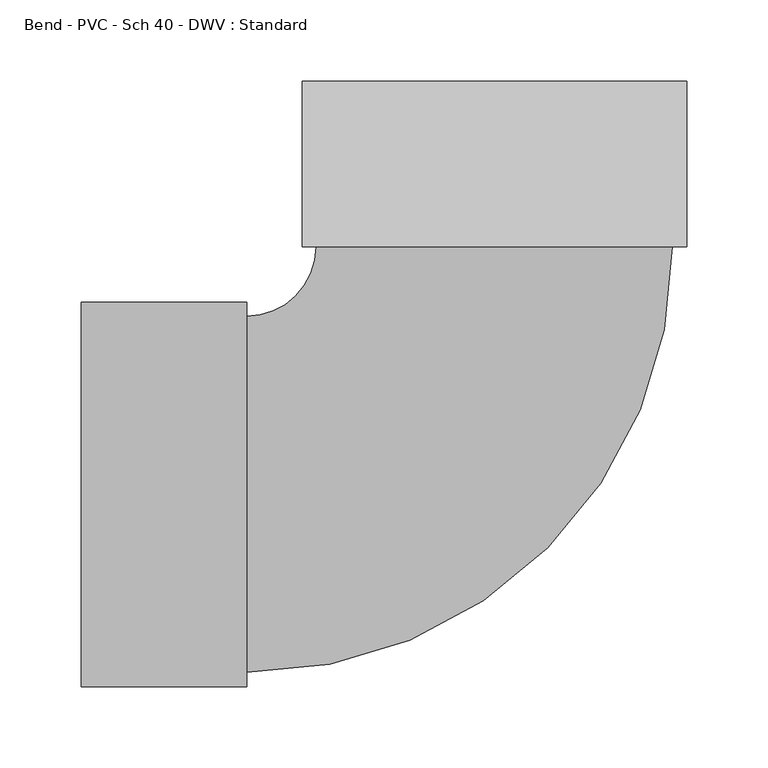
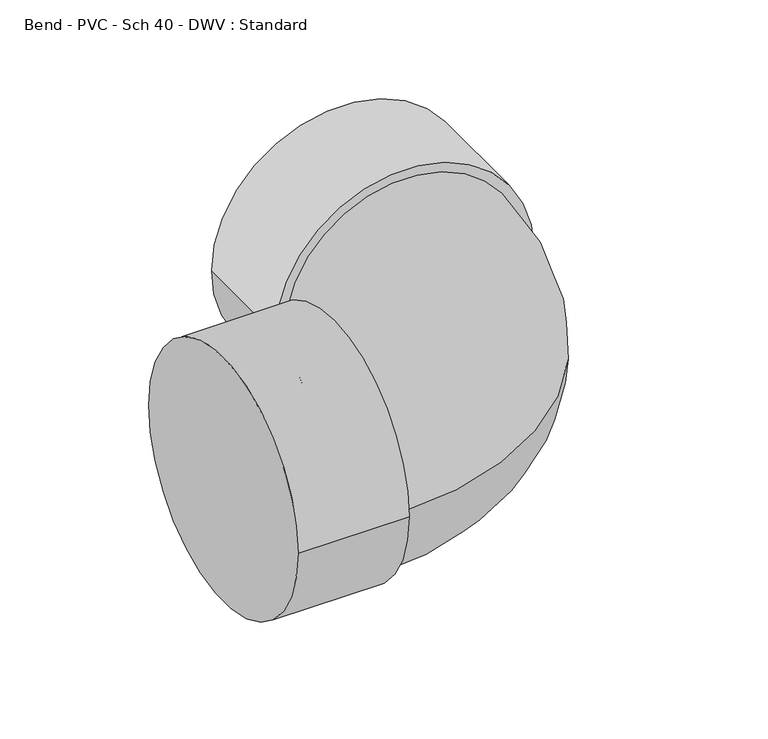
"""IFC4 building model written with IfcOpenShell, lengths in millimetres: pipe fitting geometry, Bend - PVC - Sch 40 - DWV : Standard."""

from ifc_helpers import new_model, si_unit, point, frame, origin, place, context, project, spatial, circle_curve, ellipse_curve, trimmed, source, transform, mapped, element, save
from ifc_brep_helpers import plane_surface, cylinder_surface, revolved_surface, advanced_brep


def bend_pvc_sch_40_dwv_standard_a8b4d0eb(model_context):
    return source(origin(), model_context, "Body", "AdvancedBrep", [
        advanced_brep(
        [(-254.0, -118.2497, 0.0), (-254.0, 118.2497, 0.0), (-152.4, -118.2497, 0.0), (-152.4, 118.2497, 0.0), (-152.4, -109.5375, 0.0), (-152.4, 109.5375, 0.0), (-109.5209647, 152.4118834, 0.0), (109.554034, 152.3881148, 0.0), (118.266234, 152.3871696, 0.0), (-118.2331646, 152.4128286, 0.0), (118.2772571, 253.987169, 0.0), (-118.2221415, 254.012828, 0.0)],
        [
            (0, 1, circle_curve(frame((-254.0, 0.0, 0.0), z_axis=(-1.0, 0.0, 0.0), x_axis=(0.0, 1.0, 0.0)), 118.2497)),
            (1, 0, circle_curve(frame((-254.0, 0.0, 0.0), z_axis=(-1.0, 0.0, 0.0), x_axis=(0.0, 1.0, 0.0)), 118.2497)),
            (2, 3, circle_curve(frame((-152.4, 0.0, 0.0), z_axis=(1.0, 0.0, 0.0), x_axis=(0.0, 1.0, 0.0)), 118.2497)),
            (3, 2, circle_curve(frame((-152.4, 0.0, 0.0), z_axis=(1.0, 0.0, 0.0), x_axis=(0.0, 1.0, 0.0)), 118.2497)),
            (4, 5, circle_curve(frame((-152.4, 0.0, 0.0), z_axis=(-1.0, 0.0, 0.0), x_axis=(0.0, 1.0, 0.0)), 109.5375)),
            (5, 4, circle_curve(frame((-152.4, 0.0, 0.0), z_axis=(-1.0, 0.0, 0.0), x_axis=(0.0, 1.0, 0.0)), 109.5375)),
            (0, 2),
            (3, 1),
            (6, 5, circle_curve(frame((-152.4, 152.4165356, 0.0), z_axis=(0.0, 0.0, -1.0), x_axis=(0.0, -1.0, 0.0)), 42.8790356)),
            (4, 7, circle_curve(frame((-152.4, 152.4165356, 0.0), z_axis=(0.0, 0.0, 1.0), x_axis=(0.0, -1.0, 0.0)), 261.9540356)),
            (7, 6, circle_curve(frame((0.0165347, 152.3999991, 0.0), z_axis=(-0.00010849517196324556, -0.9999999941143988, 0.0), x_axis=(-0.9999999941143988, 0.00010849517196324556, 0.0)), 109.5375)),
            (6, 7, circle_curve(frame((0.0165347, 152.3999991, 0.0), z_axis=(-0.00010849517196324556, -0.9999999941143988, 0.0), x_axis=(-0.9999999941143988, 0.00010849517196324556, 0.0)), 109.5375)),
            (8, 9, circle_curve(frame((0.0165347, 152.3999991, 0.0), z_axis=(-0.00010849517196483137, -0.9999999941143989, 0.0), x_axis=(-0.9999999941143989, 0.00010849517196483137, 0.0)), 118.2497)),
            (9, 8, circle_curve(frame((0.0165347, 152.3999991, 0.0), z_axis=(-0.00010849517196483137, -0.9999999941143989, 0.0), x_axis=(-0.9999999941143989, 0.00010849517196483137, 0.0)), 118.2497)),
            (10, 11, circle_curve(frame((0.0275578, 253.9999985, 0.0), z_axis=(0.00010849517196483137, 0.9999999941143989, 0.0), x_axis=(-0.9999999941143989, 0.00010849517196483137, 0.0)), 118.2497)),
            (11, 10, circle_curve(frame((0.0275578, 253.9999985, 0.0), z_axis=(0.00010849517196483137, 0.9999999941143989, 0.0), x_axis=(-0.9999999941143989, 0.00010849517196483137, 0.0)), 118.2497)),
            (8, 10),
            (11, 9),
        ],
        [
            plane_surface(frame((-254.0, 0.0, 0.0), z_axis=(-1.0, 0.0, 0.0), x_axis=(0.0, 0.0, 1.0))),
            plane_surface(frame((-152.4, 0.0, 0.0), z_axis=(1.0, 0.0, 0.0), x_axis=(0.0, 0.0, 1.0))),
            cylinder_surface(frame((-254.0, 0.0, 0.0), z_axis=(-1.0, 0.0, 0.0), x_axis=(0.0, 1.0, 0.0)), 118.2497),
            revolved_surface(trimmed(ellipse_curve(frame((-152.4, 0.0, 0.0), z_axis=(-1.0, 0.0, 0.0), x_axis=(0.0, 1.0, 0.0)), 109.5375, 109.5375), [point((-152.4, -109.5375, 0.0))], [point((-152.4, 109.5375, 0.0))], True, "CARTESIAN"), (-152.4, 152.4165356, 0.0), (0.0, 0.0, 1.0)),
            revolved_surface(trimmed(ellipse_curve(frame((-152.4, 0.0, 0.0), z_axis=(-1.0, 0.0, 0.0), x_axis=(0.0, 1.0, 0.0)), 109.5375, 109.5375), [point((-152.4, 109.5375, 0.0))], [point((-152.4, -109.5375, 0.0))], True, "CARTESIAN"), (-152.4, 152.4165356, 0.0), (0.0, 0.0, 1.0)),
            plane_surface(frame((0.0165347, 152.3999991, 0.0), z_axis=(-0.00010849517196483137, -0.9999999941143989, 0.0), x_axis=(0.0, 0.0, 1.0))),
            plane_surface(frame((0.0275578, 253.9999985, 0.0), z_axis=(0.00010849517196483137, 0.9999999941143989, 0.0), x_axis=(0.0, 0.0, 1.0))),
            cylinder_surface(frame((0.0165347, 152.3999991, 0.0), z_axis=(-0.00010849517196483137, -0.9999999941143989, 0.0), x_axis=(-0.9999999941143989, 0.00010849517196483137, 0.0)), 118.2497),
        ],
        [
            (0, [[1, 2]]),
            (1, [[3, 4], [5, 6]]),
            (2, [[-1, 7, -4, 8]]),
            (2, [[-2, -8, -3, -7]]),
            (3, [[9, -5, 10, 11]]),
            (4, [[-9, 12, -10, -6]]),
            (5, [[13, 14], [-11, -12]]),
            (6, [[15, 16]]),
            (7, [[-13, 17, -16, 18]]),
            (7, [[-14, -18, -15, -17]]),
        ],
    ),
    ])


if __name__ == "__main__":
    model = new_model("IFC4")
    model_context = context("Model", 3, world=origin())
    ifc_project = project(units=[si_unit("LENGTHUNIT", "METRE", prefix="MILLI")], contexts=[model_context])
    site = spatial("IfcSite", under=ifc_project)
    building = spatial("IfcBuilding", under=site)
    placement = place(None, origin())
    bend_pvc_sch_40_dwv_standard_shape = bend_pvc_sch_40_dwv_standard_a8b4d0eb(model_context)
    element("IfcPipeFitting", 1, ObjectType="Bend - PVC - Sch 40 - DWV : Standard", at=placement, inside=building, context=model_context, shape_type="MappedRepresentation", body=[
        mapped(bend_pvc_sch_40_dwv_standard_shape, transform((0.0, 0.0, 0.0), x_axis=(1.0, 0.0, 0.0), y_axis=(0.0, 1.0, 0.0), z_axis=(0.0, 0.0, 1.0))),
    ])
    save(model, "model.ifc")
